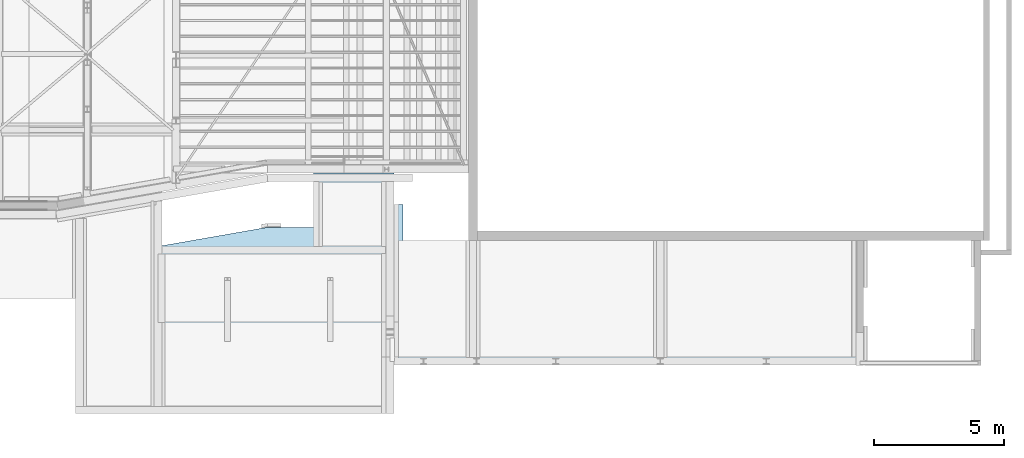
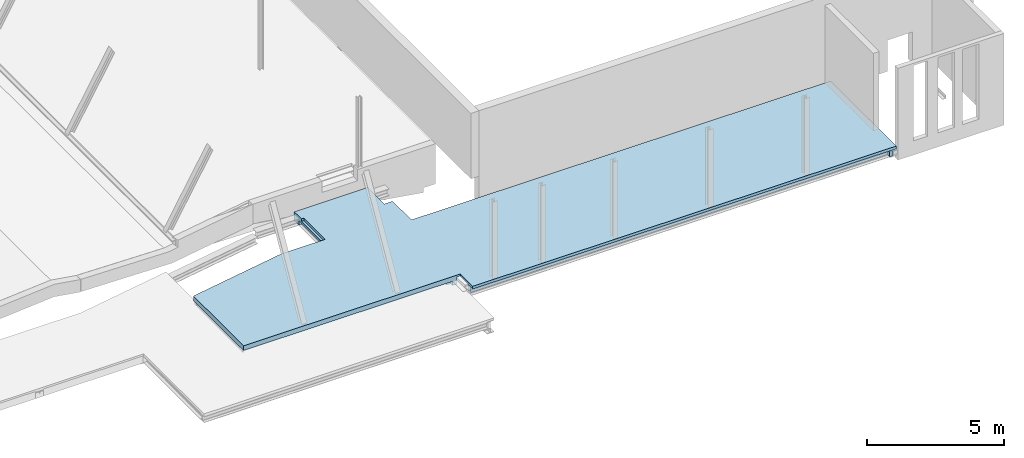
# One storey, part 47 of 50: 1 slab.
"""IFC2X3 building model written with IfcOpenShell, lengths in millimetres."""

from ifc_helpers import new_model, entity, si_unit, converted_unit, derived_unit, direction, frame, origin, place, context, subcontext, project, spatial, faceted_brep, material, type_object, element, save


model = new_model("IFC2X3")

# Units and contexts
model_context = context("Model", 3, precision=0.01, world=origin(), true_north=direction((6.12303176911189e-17, 1.0)))
body_context = subcontext(model_context, "Body", "Model", "MODEL_VIEW")
ifc_project = project(units=[si_unit("LENGTHUNIT", "METRE", prefix="MILLI"), si_unit("AREAUNIT", "SQUARE_METRE", prefix="MILLI"), si_unit("VOLUMEUNIT", "CUBIC_METRE"), converted_unit("PLANEANGLEUNIT", "DEGREE", entity("IfcRatioMeasure", 0.0174532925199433), si_unit("PLANEANGLEUNIT", "RADIAN"), dimensions=[0, 0, 0, 0, 0, 0, 0]), si_unit("MASSUNIT", "GRAM", prefix="KILO"), derived_unit("MASSDENSITYUNIT", [(si_unit("MASSUNIT", "GRAM", prefix="KILO"), 1), (si_unit("LENGTHUNIT", "METRE"), -3)]), derived_unit("MOMENTOFINERTIAUNIT", [(si_unit("LENGTHUNIT", "METRE"), 4)]), si_unit("TIMEUNIT", "SECOND"), si_unit("FREQUENCYUNIT", "HERTZ"), si_unit("THERMODYNAMICTEMPERATUREUNIT", "DEGREE_CELSIUS"), derived_unit("THERMALTRANSMITTANCEUNIT", [(si_unit("MASSUNIT", "GRAM", prefix="KILO"), 1), (si_unit("THERMODYNAMICTEMPERATUREUNIT", "KELVIN"), -1), (si_unit("TIMEUNIT", "SECOND"), -3)]), derived_unit("VOLUMETRICFLOWRATEUNIT", [(si_unit("LENGTHUNIT", "METRE"), 3), (si_unit("TIMEUNIT", "SECOND"), -1)]), si_unit("ELECTRICCURRENTUNIT", "AMPERE"), si_unit("ELECTRICVOLTAGEUNIT", "VOLT"), si_unit("POWERUNIT", "WATT"), si_unit("FORCEUNIT", "NEWTON", prefix="KILO"), si_unit("ILLUMINANCEUNIT", "LUX"), si_unit("LUMINOUSFLUXUNIT", "LUMEN"), si_unit("LUMINOUSINTENSITYUNIT", "CANDELA"), derived_unit("USERDEFINED", [(si_unit("MASSUNIT", "GRAM", prefix="KILO"), -1), (si_unit("LENGTHUNIT", "METRE"), -2), (si_unit("TIMEUNIT", "SECOND"), 3), (si_unit("LUMINOUSFLUXUNIT", "LUMEN"), 1)]), derived_unit("LINEARVELOCITYUNIT", [(si_unit("LENGTHUNIT", "METRE"), 1), (si_unit("TIMEUNIT", "SECOND"), -1)]), si_unit("PRESSUREUNIT", "PASCAL"), derived_unit("USERDEFINED", [(si_unit("LENGTHUNIT", "METRE"), -2), (si_unit("MASSUNIT", "GRAM", prefix="KILO"), 1), (si_unit("TIMEUNIT", "SECOND"), -2)]), derived_unit("LINEARFORCEUNIT", [(si_unit("MASSUNIT", "GRAM", prefix="KILO"), 1), (si_unit("LENGTHUNIT", "METRE"), 1), (si_unit("TIMEUNIT", "SECOND"), -2), (si_unit("LENGTHUNIT", "METRE"), -1)]), derived_unit("PLANARFORCEUNIT", [(si_unit("MASSUNIT", "GRAM", prefix="KILO"), 1), (si_unit("LENGTHUNIT", "METRE"), 1), (si_unit("TIMEUNIT", "SECOND"), -2), (si_unit("LENGTHUNIT", "METRE"), -2)])], contexts=[model_context])

# Site, building, storey
site_placement = place(None, origin())
site = spatial("IfcSite", under=ifc_project, at=site_placement, Name="Theater aan de Parade", CompositionType="ELEMENT")
building_placement = place(site_placement, origin())
building = spatial("IfcBuilding", under=site, at=building_placement, Name="Theater aan de Parade", CompositionType="ELEMENT")
storey_placement = place(building_placement, frame((0.0, 0.0, 15820.0)))
storey = spatial("IfcBuildingStorey", under=building, at=storey_placement, Name="04 vierde verdieping", CompositionType="ELEMENT", Elevation=15820.0)

# Slab
ifc_material = material(Name="00_PBT_MAT_beton t.p.g._C30/37")
slab_type = type_object("IfcSlabType", Name="Floor:28_PBT_FL_druklaag_d=80 (=400)_C30/37", PredefinedType="FLOOR")
slab_placement = place(storey_placement, origin())
element("IfcSlab", 1, at=slab_placement, inside=storey, type_object=slab_type, material=ifc_material, Name="Floor:28_PBT_FL_druklaag_d=80 (=400)_C30/37", ObjectType="Floor:28_PBT_FL_druklaag_d=80 (=400)_C30/37", PredefinedType="FLOOR", context=body_context, shape_type="Brep", body=[
    faceted_brep([(55620.0, 15716.8033360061, 225.0), (55600.0, 15716.8033360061, 225.0), (55620.0, 16316.8033360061, 225.0), (55620.0, 16336.8033360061, 225.0), (55600.0, 18927.7872041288, 225.0), (55620.0, 18927.7872041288, 225.0), (55600.0, 18947.7872041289, 225.0), (64174.5520755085, 18947.7872041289, 225.0), (64174.5520755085, 18927.7872041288, 225.0), (64337.0520755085, 16336.8033360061, 225.0), (64337.0520755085, 21705.0, 225.0), (64174.5520755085, 19227.7872041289, 225.0), (64174.5520755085, 19247.7872041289, 225.0), (61649.5746999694, 19247.7872041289, 225.0), (61629.5746999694, 19227.7872041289, 225.0), (61629.5746999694, 21705.0, 225.0), (61649.5746999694, 21685.0, 225.0), (61409.5746999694, 22040.0, 225.0), (61409.5746999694, 21705.0, 225.0), (64174.5520755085, 21685.0, 225.0), (64494.5520755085, 22040.0, 225.0), (64494.5520755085, 21705.0, 225.0), (64174.5520755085, 16336.8033360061, 225.0), (64174.5520755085, 16316.8033360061, 225.0), (64344.5520755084, 15716.8033360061, 225.0), (64352.0520755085, 16336.8033360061, 225.0), (64514.5520755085, 15584.3033360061, 225.0), (64514.5520755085, 19460.0002435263, 225.0), (64352.0520755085, 20830.0, 225.0), (64494.5520755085, 20830.0, 225.0), (64851.0629130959, 20830.406742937, 225.0), (64494.5520755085, 20830.406742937, 225.0), (64851.0629130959, 19460.0002435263, 225.0), (64344.5520755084, 15584.3033360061, 225.0), (64174.5520755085, 15716.8033360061, 225.0), (59656.1510073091, 19960.237517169, 225.0), (61409.5746999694, 19960.2375171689, 225.0), (61409.5746999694, 19227.7872041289, 225.0), (55600.0, 19227.7872041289, 225.0), (55600.0, 19247.7872041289, 225.0), (55600.0, 19250.41109089, 225.0), (64670.3080877, 14962.0, 225.0), (64670.3080877, 14982.0, 225.0), (67371.2561009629, 14982.0, 225.0), (67371.2561009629, 19460.0, 225.0), (67691.256100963, 19460.0, 225.0), (67691.256100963, 14982.0, 225.0), (74551.8589693, 14982.0, 225.0), (74551.8589693, 19460.0, 225.0), (74871.8589693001, 19460.0, 225.0), (74871.8589693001, 14982.0, 225.0), (82200.0084217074, 14982.0, 225.0), (82200.0084217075, 15925.0, 225.0), (82200.0084217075, 19460.0, 225.0), (82500.0084217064, 19460.0, 225.0), (82500.0084217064, 15925.0, 225.0), (82250.008421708, 15925.0, 225.0), (82220.0084217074, 15925.0, 225.0), (82220.0084217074, 14982.0, 225.0), (82220.0084217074, 14962.0, 225.0), (82220.0084217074, 14682.0, 505.0), (82500.0084217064, 14682.0, 505.0), (82500.0084217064, 14682.0, 625.0), (64670.3080877, 14682.0, 625.0), (64670.3080877, 14682.0, 505.0), (82354.7584217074, 14682.0, 267.0), (82354.7584217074, 14682.0, 463.0), (82353.0010623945, 14682.0, 467.242640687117), (82351.2437030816, 14682.0, 471.485281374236), (82349.4863437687, 14682.0, 475.727922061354), (82347.7289844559, 14682.0, 479.970562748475), (82343.3955916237, 14682.0, 481.765512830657), (82339.0621987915, 14682.0, 483.560462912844), (82334.9103102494, 14682.0, 485.280231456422), (82330.7584217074, 14682.0, 487.0), (82220.0084217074, 14682.0, 487.0), (82220.0084217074, 14682.0, 243.0), (82330.7584217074, 14682.0, 243.0), (82335.0010623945, 14682.0, 244.757359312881), (82339.2437030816, 14682.0, 246.514718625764), (82343.4863437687, 14682.0, 248.272077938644), (82347.7289844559, 14682.0, 250.029437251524), (82349.523934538, 14682.0, 254.36283008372), (82351.3188846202, 14682.0, 258.696222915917), (82353.0386531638, 14682.0, 262.84811145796), (55600.0, 19227.7872041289, 243.0), (55600.0, 19117.0372041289, 243.0), (55600.0, 19112.7945634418, 244.757359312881), (55600.0, 19108.5519227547, 246.514718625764), (55600.0, 19104.3092820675, 248.272077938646), (55600.0, 19100.0666413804, 250.029437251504), (55600.0, 19098.3092820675, 254.272077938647), (55600.0, 19096.5519227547, 258.514718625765), (55600.0, 19095.0785308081, 262.071801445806), (55600.0, 19093.0372041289, 267.0), (55600.0, 19093.0372041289, 415.0), (55600.0, 19250.41109089, 415.0), (55600.0, 15716.8033360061, 306.0), (55600.0, 15716.8033360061, 330.0), (55600.0, 15716.8033360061, 415.0), (55600.0, 19082.5372041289, 415.0), (55600.0, 19082.5372041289, 267.0), (55600.0, 19080.779844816, 262.757359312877), (55600.0, 19079.0224855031, 258.514718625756), (55600.0, 19077.2651261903, 254.272077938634), (55600.0, 19075.5077668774, 250.029437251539), (55600.0, 19071.2651261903, 248.272077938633), (55600.0, 19067.0224855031, 246.514718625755), (55600.0, 19063.4654026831, 245.041326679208), (55600.0, 19058.5372041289, 243.0), (55600.0, 18947.7872041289, 243.0), (55620.0, 16336.8033360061, 545.0), (55620.0, 18927.7872041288, 545.0), (64174.5520755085, 18927.7872041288, 545.0), (64174.5520755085, 16336.8033360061, 545.0), (61649.5746999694, 19247.7872041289, 545.0), (61649.5746999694, 21685.0, 545.0), (64174.5520755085, 21685.0, 545.0), (64174.5520755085, 19247.7872041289, 545.0), (82200.0084217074, 15925.0, 545.0), (82200.0084217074, 14982.0, 545.0), (74871.8589693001, 14982.0, 545.0), (74871.8589693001, 19460.0, 545.0), (82200.0084217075, 19460.0002435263, 545.0), (74551.8589693, 14982.0, 545.0), (67691.256100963, 14982.0, 545.0), (67691.256100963, 19460.0, 545.0), (74551.8589693, 19460.0002435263, 545.0), (64670.3080877, 15584.3033360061, 545.0), (64514.5520755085, 15584.3033360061, 545.0), (64514.5520755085, 19460.0002435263, 545.0), (64851.0629130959, 19460.0, 545.0), (67371.2561009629, 19460.0, 545.0), (67371.2561009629, 14982.0, 545.0), (64670.3080877, 14982.0, 545.0), (64494.5520755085, 20830.406742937, 545.0), (64494.5520755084, 16336.8033360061, 545.0), (64194.5520755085, 16336.8033360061, 545.0), (64194.5520755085, 21705.0, 545.0), (64494.5520755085, 21705.0, 545.0), (61409.5746999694, 19227.7872041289, 231.0), (61409.5746999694, 19227.7872041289, 243.0), (64174.5520755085, 19227.7872041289, 487.0), (64174.5520755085, 19227.7872041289, 505.0), (55600.0, 19227.7872041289, 505.0), (55600.0, 19227.7872041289, 487.0), (64174.5520755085, 19227.7872041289, 243.0), (61524.104137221, 19227.7872041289, 243.0), (61526.5303000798, 19227.7872041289, 239.345145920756), (61528.9564629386, 19227.7872041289, 235.690291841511), (61532.2755709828, 19227.7872041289, 234.405650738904), (61535.5946790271, 19227.7872041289, 233.121009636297), (61541.0746999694, 19227.7872041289, 231.0), (61629.5746999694, 19227.7872041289, 231.0), (64174.5520755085, 15716.8033360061, 335.0), (64174.5520755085, 16316.8033360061, 335.0), (64174.5520755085, 19117.0372041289, 243.0), (64174.5520755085, 18947.7872041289, 243.0), (64174.5520755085, 19058.5372041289, 243.0), (64174.5520755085, 19063.465402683, 245.04132667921), (64174.5520755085, 19068.3936012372, 247.082653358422), (64174.5520755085, 19075.5077668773, 250.029437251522), (64174.5520755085, 19077.2651261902, 254.27207793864), (64174.5520755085, 19079.0224855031, 258.514718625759), (64174.5520755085, 19080.779844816, 262.757359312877), (64174.5520755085, 19082.5372041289, 267.0), (64174.5520755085, 19082.5372041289, 463.0), (64174.5520755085, 19080.4958774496, 467.928198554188), (64174.5520755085, 19078.4545507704, 472.856397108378), (64174.5520755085, 19075.5077668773, 479.970562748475), (64174.5520755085, 19071.2651261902, 481.727922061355), (64174.5520755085, 19067.0224855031, 483.485281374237), (64174.5520755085, 19062.779844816, 485.242640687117), (64174.5520755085, 19058.5372041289, 487.0), (64174.5520755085, 18947.7872041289, 487.0), (64174.5520755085, 18947.7872041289, 505.0), (64174.5520755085, 19117.0372041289, 487.0), (64174.5520755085, 19112.1090055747, 484.958673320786), (64174.5520755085, 19107.1808070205, 482.917346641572), (64174.5520755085, 19100.0666413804, 479.970562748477), (64174.5520755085, 19098.3092820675, 475.727922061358), (64174.5520755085, 19096.5519227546, 471.485281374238), (64174.5520755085, 19094.7945634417, 467.242640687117), (64174.5520755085, 19093.0372041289, 463.0), (64174.5520755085, 19093.0372041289, 267.0), (64174.5520755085, 19095.0785308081, 262.071801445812), (64174.5520755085, 19097.1198574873, 257.143602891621), (64174.5520755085, 19100.0666413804, 250.029437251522), (64174.5520755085, 19104.3092820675, 248.272077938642), (64174.5520755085, 19108.5519227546, 246.514718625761), (64174.5520755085, 19112.7945634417, 244.757359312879), (61409.5746999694, 22040.0, 625.0), (61409.5746999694, 21510.2375171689, 625.0), (61509.5746999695, 21510.2375171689, 625.0), (61509.5746999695, 19960.2375171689, 625.0), (59656.1510073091, 19960.237517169, 625.0), (55550.0, 19241.66109089, 625.0), (55550.0, 15584.3033360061, 625.0), (64670.3080877, 15584.3033360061, 625.0), (82500.0084217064, 15925.0, 625.0), (82500.0084217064, 19460.0, 625.0), (64851.0629130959, 19460.0, 625.0), (64851.0629130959, 20830.406742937, 625.0), (64494.5520755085, 20830.406742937, 625.0), (64494.5520755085, 22040.0, 625.0), (82500.0084217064, 15925.0, 505.0), (82500.0084217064, 15925.0, 487.0), (82500.0084217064, 15925.0, 243.0), (55550.0, 19241.66109089, 415.0), (55550.0, 15584.3033360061, 415.0), (74053.5916679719, 14831.2947293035, 476.333685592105), (64670.3080877, 14832.5220779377, 475.727922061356), (71537.3561744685, 14828.396837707, 470.330277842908), (64670.3080877, 14846.3218014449, 484.958673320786), (64670.3080877, 14841.3936028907, 482.917346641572), (70744.4160827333, 14843.1984560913, 485.609127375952), (73788.0114053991, 14837.9163144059, 482.955270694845), (82220.0084217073, 14842.7647186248, 483.485281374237), (75451.5886677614, 14834.3099663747, 480.001037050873), (70496.8011699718, 14834.2113495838, 479.902200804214), (82220.0084217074, 14830.7647186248, 471.485281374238), (82220.0084217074, 14832.5220779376, 475.727922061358), (82220.0084217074, 14846.3218014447, 484.958673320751), (76746.0539327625, 14851.249999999, 487.0), (82220.0084217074, 14851.249999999, 487.0), (71272.2391140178, 14851.249999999, 487.0), (64670.3080877, 14851.2499999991, 487.0), (64670.3080877, 14834.2794372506, 479.970562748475), (82220.0084217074, 14838.5220779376, 481.727922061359), (76746.6685980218, 14827.249999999, 463.0), (82220.0084217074, 14829.2913266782, 467.928198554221), (64670.3080877, 14829.2913266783, 467.92819855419), (71272.2989832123, 14827.249999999, 463.0), (64670.3080877, 14827.2499999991, 463.0), (82220.0084217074, 14827.249999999, 463.0), (64670.3080877, 14830.7647186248, 471.485281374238), (82220.0084217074, 14834.2794372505, 479.970562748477), (64670.3080877, 14827.2499999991, 267.0), (71271.9764807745, 14827.249999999, 267.0), (76745.4791820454, 14827.249999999, 267.0), (82220.0084217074, 14827.249999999, 267.0), (74053.5916681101, 14837.9163144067, 247.04472930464), (64670.3080877, 14838.5220779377, 248.272077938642), (71537.3561745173, 14843.9197221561, 244.146837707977), (64670.3080877, 14829.2913266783, 262.07180144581), (64670.3080877, 14831.3326533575, 257.143602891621), (70744.4160821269, 14828.6408726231, 258.948456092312), (73788.011405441, 14831.2947293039, 253.666314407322), (82220.0084217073, 14830.7647186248, 258.514718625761), (75451.5886674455, 14834.2489629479, 250.059966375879), (70496.8011699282, 14834.3477991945, 249.961349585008), (82220.0084217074, 14842.7647186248, 246.514718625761), (82220.0084217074, 14838.5220779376, 248.272077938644), (82220.0084217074, 14829.2913266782, 262.071801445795), (64670.3080877, 14834.2794372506, 250.029437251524), (82220.0084217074, 14832.5220779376, 254.272077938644), (76746.1561032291, 14851.249999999, 243.0), (82220.0084217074, 14846.3218014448, 245.041326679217), (64670.3080877, 14846.3218014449, 245.041326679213), (71272.3037847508, 14851.249999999, 243.0), (64670.3080877, 14851.2499999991, 243.0), (82220.0084217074, 14851.249999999, 243.0), (64670.3080877, 14842.7647186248, 246.514718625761), (82220.0084217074, 14834.2794372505, 250.029437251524), (82220.0084217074, 14962.0, 243.0), (82220.0084217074, 15925.0, 243.0), (82330.7584217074, 15925.0, 243.0), (82220.0084217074, 14792.749999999, 243.0), (64670.3080877, 14962.0, 243.0), (82220.0084217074, 14962.0, 487.0), (82220.0084217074, 14962.0, 505.0), (64670.3080877, 14962.0, 505.0), (64670.3080877, 14962.0, 487.0), (82220.0084217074, 15925.0, 505.0), (55600.0, 18947.7872041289, 505.0), (82220.0084217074, 14792.749999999, 487.0), (82330.7584217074, 15925.0, 487.0), (82220.0084217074, 15925.0, 487.0), (55600.0, 19117.0372041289, 487.0), (55600.0, 19058.5372041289, 487.0), (55600.0, 18947.7872041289, 487.0), (64344.5520755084, 15716.8033360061, 415.0), (64344.5520755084, 15584.3033360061, 415.0), (55620.0, 15716.8033360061, 335.0), (64344.5520755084, 15716.8033360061, 335.0), (61509.5746999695, 19960.2375171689, 515.0), (61409.5746999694, 19960.2375171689, 515.0), (61409.5746999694, 19960.2375171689, 430.0), (61409.5746999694, 21705.0, 419.0), (61409.5746999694, 21705.0, 430.0), (61409.5746999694, 21510.2375171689, 515.0), (61409.5746999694, 21705.0, 231.0), (55620.0, 16316.8033360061, 335.0), (64494.5520755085, 21705.0, 516.0), (64352.0520755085, 16336.8033360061, 489.0), (64337.0520755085, 16336.8033360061, 489.0), (64335.0750462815, 16336.8033360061, 493.772970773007), (64333.0980170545, 16336.8033360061, 498.545941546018), (64331.1209878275, 16336.8033360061, 503.318912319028), (64329.1439586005, 16336.8033360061, 508.091883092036), (64324.1865850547, 16336.8033360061, 510.145294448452), (64319.2292115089, 16336.8033360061, 512.198705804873), (64314.6406435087, 16336.8033360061, 514.099352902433), (64310.0520755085, 16336.8033360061, 516.0), (64194.5520755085, 16336.8033360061, 516.0), (64494.5520755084, 16336.8033360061, 516.0), (64379.0520755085, 16336.8033360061, 516.0), (64374.2791047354, 16336.8033360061, 514.022970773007), (64369.5061339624, 16336.8033360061, 512.045941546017), (64364.7331631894, 16336.8033360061, 510.068912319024), (64359.9601924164, 16336.8033360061, 508.091883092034), (64356.593629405, 16336.8033360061, 499.964281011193), (64354.3228524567, 16336.8033360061, 494.482140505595), (61409.5746999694, 19227.7872041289, 419.0), (61409.5746999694, 19227.7872041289, 430.0), (61629.5746999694, 19227.7872041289, 430.0), (61629.5746999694, 19227.7872041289, 419.0), (61541.0746999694, 19227.7872041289, 419.0), (61535.6621067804, 19227.7872041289, 416.758030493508), (61532.0044423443, 19227.7872041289, 415.242976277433), (61528.3467779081, 19227.7872041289, 413.727922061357), (61527.0287584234, 19227.7872041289, 410.545941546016), (61525.7107389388, 19227.7872041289, 407.363961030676), (61524.3927194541, 19227.7872041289, 404.181980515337), (61523.0746999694, 19227.7872041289, 401.0), (61523.0746999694, 19227.7872041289, 249.0), (61523.3355130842, 19227.7872041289, 245.946927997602), (61629.5746999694, 21705.0, 231.0), (61541.0746999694, 21705.0, 231.0), (61537.8927194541, 21705.0, 232.318019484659), (61534.7107389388, 21705.0, 233.636038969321), (61531.5287584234, 21705.0, 234.954058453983), (61528.3467779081, 21705.0, 236.27207793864), (61527.0287584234, 21705.0, 239.454058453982), (61525.7107389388, 21705.0, 242.636038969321), (61524.3927194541, 21705.0, 245.81801948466), (61523.0746999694, 21705.0, 249.0), (61523.0746999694, 21705.0, 401.0), (61524.3927194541, 21705.0, 404.181980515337), (61525.7107389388, 21705.0, 407.363961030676), (61527.0287584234, 21705.0, 410.545941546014), (61528.3467779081, 21705.0, 413.727922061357), (61531.5287584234, 21705.0, 415.045941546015), (61534.7107389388, 21705.0, 416.363961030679), (61537.8927194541, 21705.0, 417.681980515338), (61541.0746999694, 21705.0, 419.0), (61629.5746999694, 21705.0, 419.0), (61629.5746999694, 21705.0, 430.0), (64337.0520755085, 21705.0, 489.0), (64194.5520755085, 21705.0, 516.0), (64310.0520755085, 21705.0, 516.0), (64314.8250462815, 21705.0, 514.022970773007), (64319.5980170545, 21705.0, 512.045941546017), (64324.3709878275, 21705.0, 510.068912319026), (64329.1439586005, 21705.0, 508.091883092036), (64331.1209878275, 21705.0, 503.318912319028), (64333.0980170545, 21705.0, 498.545941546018), (64335.1514284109, 21705.0, 493.588568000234), (64494.5520755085, 20830.0, 516.0), (64352.0520755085, 20830.0, 489.0), (64354.3228524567, 20830.0, 494.482140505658), (64356.0061339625, 20830.0, 498.545941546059), (64357.9831631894, 20830.0, 503.318912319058), (64359.9601924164, 20830.0, 508.091883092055), (64364.7331631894, 20830.0, 510.068912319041), (64369.5061339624, 20830.0, 512.045941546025), (64374.2791047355, 20830.0, 514.022970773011), (64379.0520755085, 20830.0, 516.0), (55600.0, 19082.5372041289, 463.0), (55600.0, 19093.0372041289, 463.0), (55600.0, 19094.7945634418, 467.242640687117), (55600.0, 19096.5519227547, 471.485281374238), (55600.0, 19098.3092820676, 475.727922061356), (55600.0, 19100.0666413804, 479.970562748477), (55600.0, 19104.3092820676, 481.727922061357), (55600.0, 19108.5519227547, 483.485281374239), (55600.0, 19112.1090055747, 484.958673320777), (55600.0, 19062.779844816, 485.242640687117), (55600.0, 19067.0224855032, 483.485281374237), (55600.0, 19071.2651261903, 481.727922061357), (55600.0, 19075.5077668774, 479.970562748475), (55600.0, 19077.2651261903, 475.727922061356), (55600.0, 19079.0224855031, 471.485281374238), (55600.0, 19080.4958774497, 467.928198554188), (82335.0010623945, 15925.0, 485.24264068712), (82339.2437030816, 15925.0, 483.485281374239), (82343.4863437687, 15925.0, 481.727922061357), (82347.7289844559, 15925.0, 479.970562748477), (82349.4863437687, 15925.0, 475.727922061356), (82351.2437030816, 15925.0, 471.485281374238), (82353.0386531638, 15925.0, 467.151888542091), (82354.7584217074, 15925.0, 463.0), (82354.7584217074, 15925.0, 267.0), (82353.0010623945, 15925.0, 262.757359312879), (82351.2437030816, 15925.0, 258.514718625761), (82349.4863437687, 15925.0, 254.272077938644), (82347.7289844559, 15925.0, 250.029437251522), (82343.4863437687, 15925.0, 248.272077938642), (82339.2437030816, 15925.0, 246.514718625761), (82334.9103102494, 15925.0, 244.719768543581), (61509.5746999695, 21510.2375171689, 515.0)], [[[0, 1, 2]], [[3, 2, 1]], [[1, 4, 3]], [[4, 5, 3]], [[4, 6, 5]], [[7, 5, 6]], [[8, 5, 7]], [[7, 9, 8]], [[7, 10, 9]], [[7, 11, 10]], [[11, 12, 10]], [[12, 11, 13]], [[14, 13, 11]], [[13, 14, 15]], [[13, 15, 16]], [[15, 17, 16]], [[18, 17, 15]], [[16, 17, 19]], [[17, 20, 19]], [[20, 21, 10]], [[10, 19, 20]], [[19, 10, 12]], [[8, 9, 22]], [[9, 23, 22]], [[9, 24, 23]], [[9, 25, 24]], [[24, 25, 26]], [[26, 25, 27]], [[25, 28, 27]], [[28, 29, 27]], [[27, 29, 30]], [[31, 30, 29]], [[30, 32, 27]], [[26, 33, 24]], [[24, 34, 23]], [[22, 23, 2]], [[2, 3, 22]], [[35, 36, 37, 38, 39, 40]], [[41, 42, 43, 44, 45, 46, 47, 48, 49, 50, 51, 52, 53, 54, 55, 56, 57, 58, 59]], [[60, 61, 62, 63, 64]], [[65, 66, 67, 68, 69, 70, 71, 72, 73, 74, 75, 76, 77, 78, 79, 80, 81, 82, 83, 84]], [[85, 86, 87, 88, 89, 90, 91, 92, 93, 94, 95, 96, 40, 39, 38]], [[4, 1, 97, 98, 99, 100, 101, 102, 103, 104, 105, 106, 107, 108, 109, 110, 6]], [[111, 112, 113, 114]], [[115, 116, 117, 118]], [[119, 120, 121, 122, 123]], [[124, 125, 126, 127]], [[128, 129, 130, 131, 132, 133, 134]], [[135, 136, 137, 138, 139]], [[50, 121, 120, 51]], [[46, 125, 124, 47]], [[42, 134, 133, 43]], [[140, 141, 85, 38, 37]], [[142, 143, 144, 145]], [[11, 146, 147, 148, 149, 150, 151, 152, 153, 14]], [[12, 118, 117, 19]], [[34, 154, 155, 23]], [[156, 146, 11, 7, 157, 158, 159, 160, 161, 162, 163, 164, 165, 166, 167, 168, 169, 170, 171, 172, 173, 174, 175, 143, 142, 176, 177, 178, 179, 180, 181, 182, 183, 184, 185, 186, 187, 188, 189, 190]], [[22, 114, 113, 8]], [[191, 192, 193, 194, 195, 196, 197, 198, 63, 62, 199, 200, 201, 202, 203, 204]], [[132, 131, 201, 126, 45, 44]], [[49, 48, 122]], [[54, 53, 123]], [[127, 122, 48]], [[200, 127, 201]], [[127, 126, 201]], [[123, 200, 54]], [[200, 123, 122]], [[200, 122, 127]], [[54, 200, 199, 62, 61, 205, 206, 207, 55]], [[208, 209, 197, 196]], [[210, 211, 212]], [[213, 214, 215]], [[216, 217, 215]], [[216, 215, 214]], [[218, 216, 219]], [[210, 220, 221]], [[217, 222, 215]], [[223, 222, 224]], [[225, 226, 213]], [[219, 214, 227]], [[217, 216, 228]], [[225, 213, 215]], [[210, 218, 219]], [[211, 210, 219]], [[212, 229, 230]], [[231, 232, 212]], [[231, 233, 232]], [[229, 234, 230]], [[212, 232, 229]], [[231, 212, 211, 235]], [[220, 212, 230]], [[218, 228, 216]], [[215, 223, 225]], [[215, 222, 223]], [[214, 219, 216]], [[221, 236, 218]], [[219, 227, 211]], [[221, 218, 210]], [[228, 218, 236]], [[212, 220, 210]], [[237, 238, 239, 240, 234, 229, 232, 233]], [[241, 242, 243]], [[244, 245, 246]], [[247, 248, 246]], [[247, 246, 245]], [[249, 247, 250]], [[241, 251, 252]], [[248, 253, 246]], [[239, 253, 240]], [[238, 237, 244]], [[250, 245, 254]], [[248, 247, 255]], [[238, 244, 246]], [[241, 249, 250]], [[242, 241, 250]], [[243, 256, 257]], [[258, 259, 243]], [[258, 260, 259]], [[256, 261, 257]], [[243, 259, 256]], [[258, 243, 242, 262]], [[251, 243, 257]], [[249, 255, 247]], [[246, 239, 238]], [[246, 253, 239]], [[245, 250, 247]], [[252, 263, 249]], [[250, 254, 242]], [[252, 249, 241]], [[255, 249, 263]], [[243, 251, 241]], [[264, 265, 266, 77, 76, 267, 261, 256, 259, 260, 268]], [[146, 156, 86, 85, 141, 147]], [[158, 157, 110, 109]], [[59, 264, 268, 41]], [[269, 270, 271, 272]], [[271, 270, 273, 205, 61, 60, 64]], [[143, 175, 274, 144]], [[226, 225, 223, 224, 275, 75, 74, 276, 277, 269, 272]], [[176, 142, 145, 278]], [[174, 173, 279, 280]], [[95, 100, 99, 281, 282, 209, 208, 96]], [[237, 233, 231, 235, 211, 227, 214, 213, 226, 272, 271, 64, 63, 198, 128, 134, 42, 41, 268, 260, 258, 262, 242, 254, 245, 244]], [[33, 26, 129, 128, 198, 197, 209, 282]], [[0, 283, 154, 34, 24, 284, 281, 99, 98, 97, 1]], [[96, 208, 196, 195, 35, 40]], [[35, 195, 194, 285, 286, 287, 36]], [[288, 289, 287, 286, 290, 192, 191, 17, 18, 291]], [[20, 17, 191, 204]], [[32, 30, 202, 201, 131]], [[292, 155, 154, 283]], [[283, 0, 2, 292]], [[111, 3, 5, 112]], [[155, 292, 2, 23]], [[20, 204, 203, 135, 139, 293, 21]], [[30, 31, 135, 203, 202]], [[131, 27, 32]], [[27, 131, 130]], [[123, 53, 52, 51, 120, 119]], [[129, 26, 27, 130]], [[114, 22, 3, 111]], [[294, 25, 9, 295, 296, 297, 298, 299, 300, 301, 302, 303, 304, 137, 136, 305, 306, 307, 308, 309, 310, 311, 312]], [[112, 5, 8, 113]], [[115, 118, 12, 13]], [[116, 16, 19, 117]], [[116, 115, 13, 16]], [[141, 313, 314, 315, 316, 317, 318, 319, 320, 321, 322, 323, 324, 325, 326, 147]], [[15, 327, 328, 329, 330, 331, 332, 333, 334, 335, 336, 337, 338, 339, 340, 341, 342, 343, 344, 345, 346, 347, 289, 288, 291, 18]], [[348, 10, 21, 293, 139, 138, 349, 350, 351, 352, 353, 354, 355, 356, 357]], [[140, 37, 36, 287, 314, 313, 141]], [[343, 342, 341, 320, 319, 318, 317, 345, 344]], [[340, 339, 338, 337, 324, 323, 322, 321, 320, 341]], [[325, 324, 337, 336]], [[328, 152, 329]], [[326, 336, 335]], [[148, 332, 149]], [[326, 335, 147]], [[336, 326, 325]], [[151, 330, 329]], [[150, 330, 151]], [[333, 332, 148, 334]], [[331, 330, 150]], [[150, 149, 331]], [[331, 149, 332]], [[334, 147, 335]], [[151, 329, 152]], [[147, 334, 148]], [[153, 152, 328, 327]], [[14, 153, 327, 15]], [[316, 315, 347, 346]], [[315, 314, 287, 289, 347]], [[317, 316, 346, 345]], [[358, 305, 136, 135, 31, 29]], [[28, 359, 360, 361, 362, 363, 364, 365, 366, 367, 358, 29]], [[138, 137, 304, 349]], [[350, 349, 304, 303]], [[358, 367, 306, 305]], [[353, 352, 351, 350, 303, 302, 301, 300, 299, 354]], [[354, 299, 298, 297, 296, 295, 348, 357, 356, 355]], [[10, 348, 295, 9]], [[359, 28, 25, 294]], [[312, 311, 310, 363, 362, 361, 360, 359, 294]], [[363, 310, 309, 308, 307, 306, 367, 366, 365, 364]], [[284, 24, 33, 282, 281]], [[368, 100, 95, 369, 370, 371, 372, 373, 374, 375, 376, 278, 145, 144, 274, 280, 279, 377, 378, 379, 380, 381, 382, 383]], [[176, 278, 376, 375, 374, 373, 179, 178, 177]], [[372, 371, 370, 369, 183, 182, 181, 180, 179, 373]], [[184, 183, 369, 95, 94]], [[184, 94, 93, 92, 91, 90, 187, 186, 185]], [[89, 88, 87, 86, 156, 190, 189, 188, 187, 90]], [[157, 7, 6, 110]], [[175, 174, 280, 274]], [[158, 109, 108, 107, 106, 105, 161, 160, 159]], [[104, 103, 102, 101, 165, 164, 163, 162, 161, 105]], [[166, 165, 101, 100, 368]], [[166, 368, 383, 382, 381, 380, 169, 168, 167]], [[379, 378, 377, 279, 173, 172, 171, 170, 169, 380]], [[267, 76, 75, 275, 224, 222, 217, 228, 236, 221, 220, 230, 234, 240, 253, 248, 255, 263, 252, 251, 257, 261]], [[56, 55, 207, 206, 205, 273, 277, 276, 384, 385, 386, 387, 388, 389, 390, 391, 392, 393, 394, 395, 396, 397, 398, 399, 266, 265, 57]], [[386, 385, 384, 276, 74, 73, 72, 71, 70, 387]], [[387, 70, 69, 68, 67, 66, 391, 390, 389, 388]], [[391, 66, 65, 392]], [[395, 394, 393, 392, 65, 84, 83, 82, 81, 396]], [[396, 81, 80, 79, 78, 77, 266, 399, 398, 397]], [[58, 57, 265, 264, 59]], [[273, 270, 269, 277]], [[125, 46, 45, 126]], [[43, 133, 132, 44]], [[121, 50, 49, 122]], [[47, 124, 127, 48]], [[400, 290, 286, 285]], [[290, 400, 193, 192]], [[285, 194, 193, 400]]]),
])

save(model, "model.ifc")
